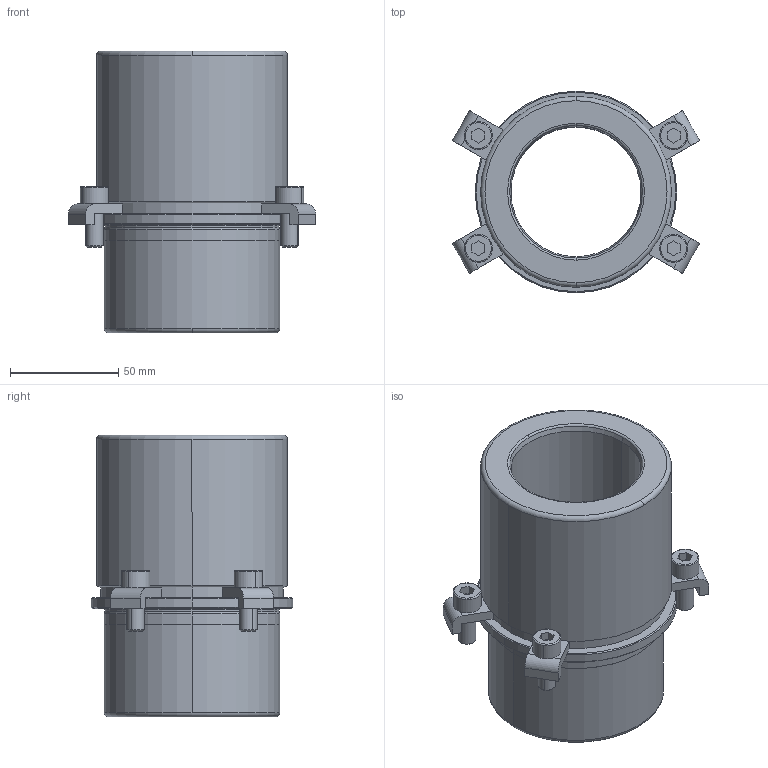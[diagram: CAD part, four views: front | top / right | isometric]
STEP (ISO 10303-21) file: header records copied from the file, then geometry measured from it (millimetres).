
FILE_DESCRIPTION((''),'2;1');
FILE_NAME('B40_048_080.stp','2009-01-05T16:40:24',(''),(''),'Mechanical Desktop 2009','Mechanical Desktop 2009',', , ');
FILE_SCHEMA(('CONFIG_CONTROL_DESIGN'));
Length unit declared in the file: millimetre
Products named in the file (2): Product; blmdl1
Assembly tree (1 placements, depth 2):
  Product
    blmdl1
Bounding box: 114.12 x 93 x 130 mm (x, y, z)
Volume: 389641.1 mm3; surface area: 76257.7 mm2
Topology: 9 solids, 9 shells, 173 faces, 422 edges, 278 vertices
Faces by surface type: plane 73, cylinder 50, cone 22, torus 16, bspline 12
Entity records: 5767 total; most frequent: CARTESIAN_POINT 1403, DIRECTION 966, ORIENTED_EDGE 844, EDGE_CURVE 422, AXIS2_PLACEMENT_3D 381, VERTEX_POINT 278, CIRCLE 218, VECTOR 204
